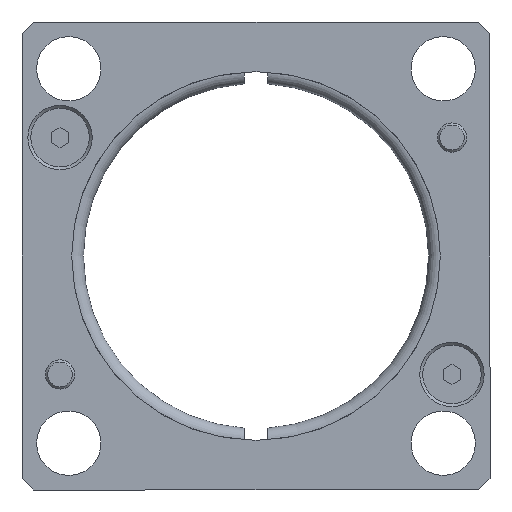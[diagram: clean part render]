
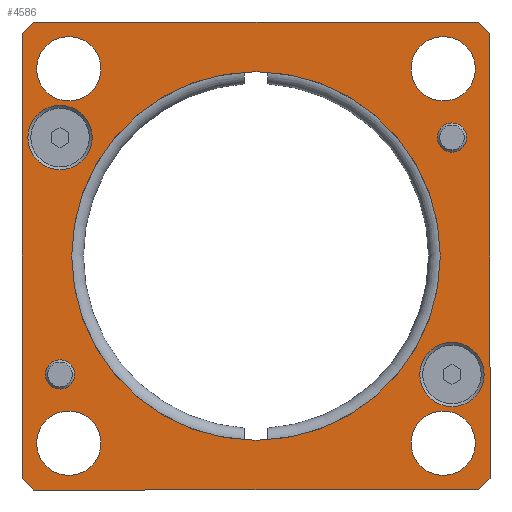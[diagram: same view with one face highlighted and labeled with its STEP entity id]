
A CAD part, front view. The second image highlights one B-rep face of the part: STEP entity #4586.
In plain terms, the highlighted planar face has unit normal (0, -1, 0) as drawn and (0, 0, -1) by its records, which use the part's own axes.
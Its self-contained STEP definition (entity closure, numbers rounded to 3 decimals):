
#402=FACE_BOUND('',#833,.T.);
#403=FACE_BOUND('',#834,.T.);
#404=FACE_BOUND('',#835,.T.);
#405=FACE_BOUND('',#836,.T.);
#406=FACE_BOUND('',#837,.T.);
#407=FACE_BOUND('',#838,.T.);
#408=FACE_BOUND('',#839,.T.);
#409=FACE_BOUND('',#840,.T.);
#410=FACE_BOUND('',#841,.T.);
#443=PLANE('',#4923);
#572=FACE_OUTER_BOUND('',#832,.T.);
#832=EDGE_LOOP('',(#3191,#3192,#3193,#3194,#3195,#3196,#3197,#3198));
#833=EDGE_LOOP('',(#3199));
#834=EDGE_LOOP('',(#3200));
#835=EDGE_LOOP('',(#3201));
#836=EDGE_LOOP('',(#3202));
#837=EDGE_LOOP('',(#3203));
#838=EDGE_LOOP('',(#3204));
#839=EDGE_LOOP('',(#3205));
#840=EDGE_LOOP('',(#3206));
#841=EDGE_LOOP('',(#3207));
#1133=LINE('',#5945,#1561);
#1134=LINE('',#5947,#1562);
#1135=LINE('',#5949,#1563);
#1136=LINE('',#5951,#1564);
#1137=LINE('',#5953,#1565);
#1138=LINE('',#5955,#1566);
#1139=LINE('',#5957,#1567);
#1140=LINE('',#5958,#1568);
#1561=VECTOR('',#5127,10.);
#1562=VECTOR('',#5128,10.);
#1563=VECTOR('',#5129,10.);
#1564=VECTOR('',#5130,10.);
#1565=VECTOR('',#5131,10.);
#1566=VECTOR('',#5132,10.);
#1567=VECTOR('',#5133,10.);
#1568=VECTOR('',#5134,10.);
#1988=CIRCLE('',#4921,5.5);
#1990=CIRCLE('',#4924,5.5);
#1991=CIRCLE('',#4925,2.5);
#1992=CIRCLE('',#4926,2.5);
#1993=CIRCLE('',#4927,31.5);
#1994=CIRCLE('',#4928,5.5);
#1995=CIRCLE('',#4929,5.5);
#1996=CIRCLE('',#4930,5.5);
#1997=CIRCLE('',#4931,5.5);
#2028=VERTEX_POINT('',#5937);
#2030=VERTEX_POINT('',#5943);
#2031=VERTEX_POINT('',#5944);
#2032=VERTEX_POINT('',#5946);
#2033=VERTEX_POINT('',#5948);
#2034=VERTEX_POINT('',#5950);
#2035=VERTEX_POINT('',#5952);
#2036=VERTEX_POINT('',#5954);
#2037=VERTEX_POINT('',#5956);
#2038=VERTEX_POINT('',#5959);
#2039=VERTEX_POINT('',#5961);
#2040=VERTEX_POINT('',#5963);
#2041=VERTEX_POINT('',#5965);
#2042=VERTEX_POINT('',#5967);
#2043=VERTEX_POINT('',#5969);
#2044=VERTEX_POINT('',#5971);
#2045=VERTEX_POINT('',#5973);
#2491=EDGE_CURVE('',#2028,#2028,#1988,.T.);
#2494=EDGE_CURVE('',#2030,#2031,#1133,.T.);
#2495=EDGE_CURVE('',#2030,#2032,#1134,.T.);
#2496=EDGE_CURVE('',#2033,#2032,#1135,.T.);
#2497=EDGE_CURVE('',#2033,#2034,#1136,.T.);
#2498=EDGE_CURVE('',#2035,#2034,#1137,.T.);
#2499=EDGE_CURVE('',#2035,#2036,#1138,.T.);
#2500=EDGE_CURVE('',#2037,#2036,#1139,.T.);
#2501=EDGE_CURVE('',#2037,#2031,#1140,.T.);
#2502=EDGE_CURVE('',#2038,#2038,#1990,.T.);
#2503=EDGE_CURVE('',#2039,#2039,#1991,.T.);
#2504=EDGE_CURVE('',#2040,#2040,#1992,.T.);
#2505=EDGE_CURVE('',#2041,#2041,#1993,.T.);
#2506=EDGE_CURVE('',#2042,#2042,#1994,.T.);
#2507=EDGE_CURVE('',#2043,#2043,#1995,.T.);
#2508=EDGE_CURVE('',#2044,#2044,#1996,.T.);
#2509=EDGE_CURVE('',#2045,#2045,#1997,.T.);
#3191=ORIENTED_EDGE('',*,*,#2494,.F.);
#3192=ORIENTED_EDGE('',*,*,#2495,.T.);
#3193=ORIENTED_EDGE('',*,*,#2496,.F.);
#3194=ORIENTED_EDGE('',*,*,#2497,.T.);
#3195=ORIENTED_EDGE('',*,*,#2498,.F.);
#3196=ORIENTED_EDGE('',*,*,#2499,.T.);
#3197=ORIENTED_EDGE('',*,*,#2500,.F.);
#3198=ORIENTED_EDGE('',*,*,#2501,.T.);
#3199=ORIENTED_EDGE('',*,*,#2502,.F.);
#3200=ORIENTED_EDGE('',*,*,#2503,.T.);
#3201=ORIENTED_EDGE('',*,*,#2504,.T.);
#3202=ORIENTED_EDGE('',*,*,#2505,.T.);
#3203=ORIENTED_EDGE('',*,*,#2506,.T.);
#3204=ORIENTED_EDGE('',*,*,#2507,.T.);
#3205=ORIENTED_EDGE('',*,*,#2508,.T.);
#3206=ORIENTED_EDGE('',*,*,#2509,.T.);
#3207=ORIENTED_EDGE('',*,*,#2491,.F.);
#4586=ADVANCED_FACE('',(#572,#402,#403,#404,#405,#406,#407,#408,#409,#410),
#443,.F.);
#4921=AXIS2_PLACEMENT_3D('',#5938,#5120,#5121);
#4923=AXIS2_PLACEMENT_3D('',#5942,#5125,#5126);
#4924=AXIS2_PLACEMENT_3D('',#5960,#5135,#5136);
#4925=AXIS2_PLACEMENT_3D('',#5962,#5137,#5138);
#4926=AXIS2_PLACEMENT_3D('',#5964,#5139,#5140);
#4927=AXIS2_PLACEMENT_3D('',#5966,#5141,#5142);
#4928=AXIS2_PLACEMENT_3D('',#5968,#5143,#5144);
#4929=AXIS2_PLACEMENT_3D('',#5970,#5145,#5146);
#4930=AXIS2_PLACEMENT_3D('',#5972,#5147,#5148);
#4931=AXIS2_PLACEMENT_3D('',#5974,#5149,#5150);
#5120=DIRECTION('center_axis',(0.,0.,-1.));
#5121=DIRECTION('ref_axis',(1.,0.,0.));
#5125=DIRECTION('center_axis',(0.,0.,1.));
#5126=DIRECTION('ref_axis',(1.,0.,0.));
#5127=DIRECTION('',(-0.707,0.707,0.));
#5128=DIRECTION('',(0.,-1.,0.));
#5129=DIRECTION('',(0.707,0.707,0.));
#5130=DIRECTION('',(-1.,0.,0.));
#5131=DIRECTION('',(0.707,-0.707,0.));
#5132=DIRECTION('',(0.,1.,0.));
#5133=DIRECTION('',(-0.707,-0.707,0.));
#5134=DIRECTION('',(1.,0.,0.));
#5135=DIRECTION('center_axis',(0.,0.,-1.));
#5136=DIRECTION('ref_axis',(1.,0.,0.));
#5137=DIRECTION('center_axis',(0.,0.,1.));
#5138=DIRECTION('ref_axis',(1.,0.,0.));
#5139=DIRECTION('center_axis',(0.,0.,1.));
#5140=DIRECTION('ref_axis',(1.,0.,0.));
#5141=DIRECTION('center_axis',(0.,0.,1.));
#5142=DIRECTION('ref_axis',(-1.,0.,0.));
#5143=DIRECTION('center_axis',(0.,0.,1.));
#5144=DIRECTION('ref_axis',(-1.,0.,0.));
#5145=DIRECTION('center_axis',(0.,0.,1.));
#5146=DIRECTION('ref_axis',(-1.,0.,0.));
#5147=DIRECTION('center_axis',(0.,0.,1.));
#5148=DIRECTION('ref_axis',(-1.,0.,0.));
#5149=DIRECTION('center_axis',(0.,0.,1.));
#5150=DIRECTION('ref_axis',(-1.,0.,0.));
#5937=CARTESIAN_POINT('',(28.,20.25,0.));
#5938=CARTESIAN_POINT('Origin',(33.5,20.25,0.));
#5942=CARTESIAN_POINT('Origin',(0.,0.,
0.));
#5943=CARTESIAN_POINT('',(40.,38.,0.));
#5944=CARTESIAN_POINT('',(38.,40.,0.));
#5945=CARTESIAN_POINT('',(39.,39.,0.));
#5946=CARTESIAN_POINT('',(40.,-38.,0.));
#5947=CARTESIAN_POINT('',(40.,40.,0.));
#5948=CARTESIAN_POINT('',(38.,-40.,0.));
#5949=CARTESIAN_POINT('',(39.,-39.,0.));
#5950=CARTESIAN_POINT('',(-38.,-40.,0.));
#5951=CARTESIAN_POINT('',(40.,-40.,0.));
#5952=CARTESIAN_POINT('',(-40.,-38.,0.));
#5953=CARTESIAN_POINT('',(-39.,-39.,0.));
#5954=CARTESIAN_POINT('',(-40.,38.,0.));
#5955=CARTESIAN_POINT('',(-40.,-40.,0.));
#5956=CARTESIAN_POINT('',(-38.,40.,0.));
#5957=CARTESIAN_POINT('',(-39.,39.,0.));
#5958=CARTESIAN_POINT('',(-40.,40.,0.));
#5959=CARTESIAN_POINT('',(-39.,-20.25,0.));
#5960=CARTESIAN_POINT('Origin',(-33.5,-20.25,0.));
#5961=CARTESIAN_POINT('',(31.,-20.25,0.));
#5962=CARTESIAN_POINT('Origin',(33.5,-20.25,0.));
#5963=CARTESIAN_POINT('',(-36.,20.25,0.));
#5964=CARTESIAN_POINT('Origin',(-33.5,20.25,0.));
#5965=CARTESIAN_POINT('',(31.5,0.,0.));
#5966=CARTESIAN_POINT('Origin',(0.,0.,0.));
#5967=CARTESIAN_POINT('',(37.5,-32.,0.));
#5968=CARTESIAN_POINT('Origin',(32.,-32.,0.));
#5969=CARTESIAN_POINT('',(-26.5,-32.,0.));
#5970=CARTESIAN_POINT('Origin',(-32.,-32.,0.));
#5971=CARTESIAN_POINT('',(37.5,32.,0.));
#5972=CARTESIAN_POINT('Origin',(32.,32.,0.));
#5973=CARTESIAN_POINT('',(-26.5,32.,0.));
#5974=CARTESIAN_POINT('Origin',(-32.,32.,0.));
